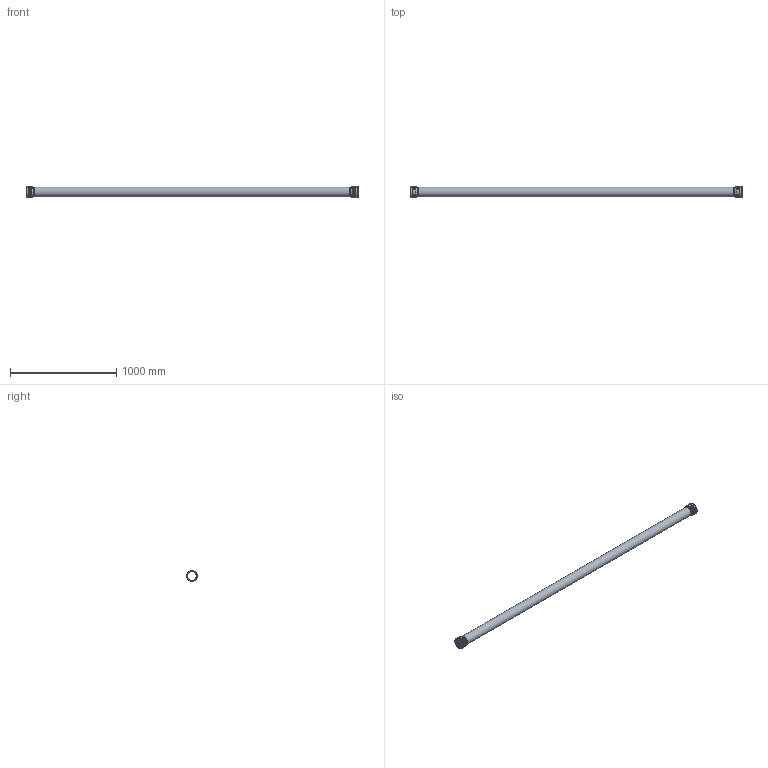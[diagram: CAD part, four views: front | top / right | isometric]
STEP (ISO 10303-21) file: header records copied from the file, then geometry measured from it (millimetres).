
FILE_DESCRIPTION(/* description */ (''),/* implementation_level */ '2;1');
FILE_NAME(/* name */ 'H:\Geberit-Teile\Export\PP_Rohr 2 Muffen_TEST\stp\393414.stp',/* time_stamp */ '2017-02-13T17:11:10+01:00',/* author */ ('seihe2'),/* organization */ (''),/* preprocessor_version */ 'ST-DEVELOPER v15.2',/* originating_system */ 'Autodesk Inventor 2014',/* authorisation */ '');
FILE_SCHEMA (('AUTOMOTIVE_DESIGN { 1 0 10303 214 3 1 1 }'));
Length unit declared in the file: millimetre
Products named in the file (1): 393414
Bounding box: 3122 x 107 x 107 mm (x, y, z)
Volume: 3670540.3 mm3; surface area: 1727176.9 mm2
Topology: 3 solids, 3 shells, 70 faces, 152 edges, 106 vertices
Faces by surface type: torus 34, cylinder 18, plane 14, bspline 2, cone 2
Full cylindrical faces by diameter (mm): 81.6 x3, 90.2 x3, 91 x2, 93 x2, 98.8 x2, 100 x2, 100.8 x2, 107 x2
Entity records: 4140 total; most frequent: CARTESIAN_POINT 2721, ORIENTED_EDGE 236, DIRECTION 234, EDGE_LOOP 126, EDGE_CURVE 118, AXIS2_PLACEMENT_3D 117, VERTEX_POINT 104, STYLED_ITEM 73
